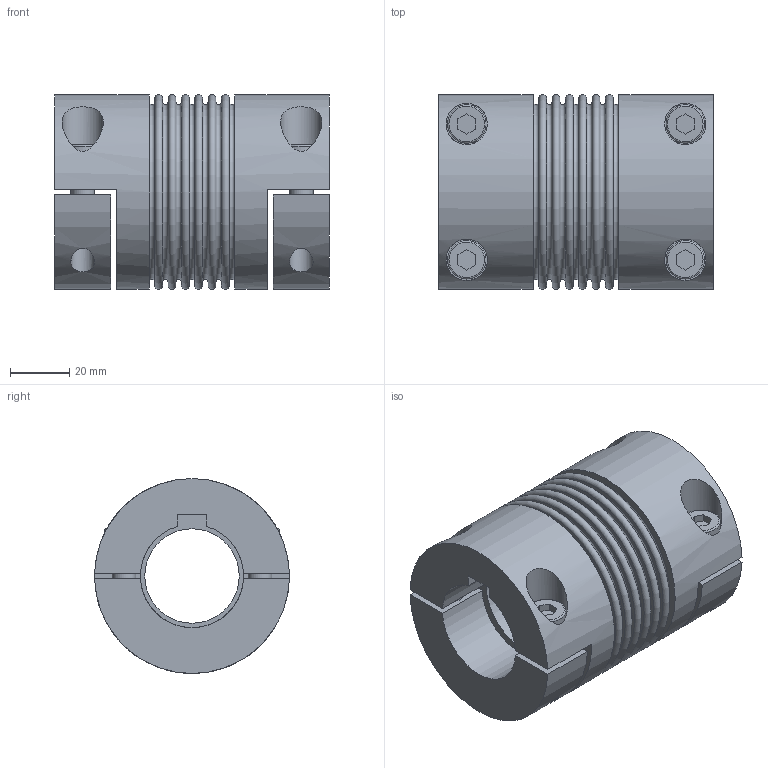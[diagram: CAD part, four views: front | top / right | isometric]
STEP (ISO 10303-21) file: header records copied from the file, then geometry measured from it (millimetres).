
FILE_DESCRIPTION(/* description */ ('STEP AP214'),/* implementation_level */ '2;1');
FILE_NAME(/* name */ 'C:\Diequa Files\DieQua Coupling\BCS\STP\BCS.60.93.#.#.stp',/* time_stamp */ '2018-11-15T09:25:40-06:00',/* author */ ('DiequaCAD'),/* organization */ (''),/* preprocessor_version */ 'ST-DEVELOPER v17.2',/* originating_system */ 'Autodesk Inventor 2019',/* authorisation */ ' ');
FILE_SCHEMA (('AUTOMOTIVE_DESIGN { 1 0 10303 214 3 1 1 }'));
Length unit declared in the file: millimetre
Products named in the file (1): BKH_60_93_35_PFN_35_PFN_12
Bounding box: 93 x 66 x 66 mm (x, y, z)
Volume: 208086.4 mm3; surface area: 52201.1 mm2
Topology: 1 solids, 1 shells, 120 faces, 280 edges, 196 vertices
Faces by surface type: plane 78, cylinder 25, torus 17
Full cylindrical faces by diameter (mm): 8 x8, 13 x4, 14 x4, 32 x1, 66 x2
Entity records: 3853 total; most frequent: CARTESIAN_POINT 899, DIRECTION 635, ORIENTED_EDGE 560, EDGE_CURVE 280, AXIS2_PLACEMENT_3D 246, VERTEX_POINT 196, EDGE_LOOP 160, LINE 143
